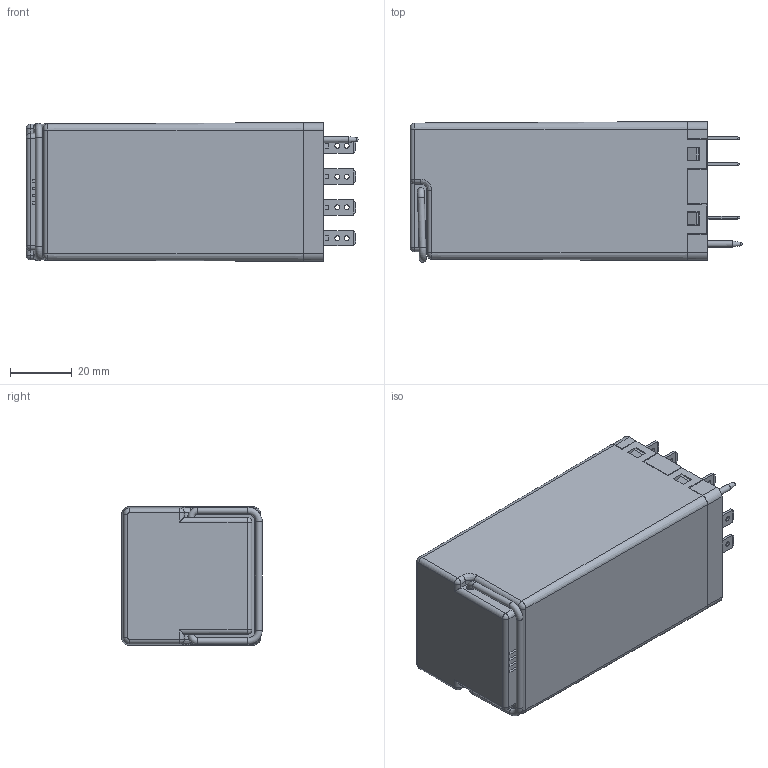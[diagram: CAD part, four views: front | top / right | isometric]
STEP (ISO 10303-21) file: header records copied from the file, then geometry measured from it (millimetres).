
FILE_DESCRIPTION (( 'STEP AP203' ), '1' );
FILE_NAME ('RELE BF4.STEP', '2017-07-28T06:26:49', ( 'arteche' ), ( '' ), 'SwSTEP 2.0', 'SolidWorks 2013', '' );
FILE_SCHEMA (( 'CONFIG_CONTROL_DESIGN' ));
Length unit declared in the file: millimetre
Products named in the file (1): RELE BF4
Bounding box: 107.7 x 45.59 x 45.07 mm (x, y, z)
Volume: 186546 mm3; surface area: 26924.2 mm2
Topology: 1 solids, 7 shells, 717 faces, 1894 edges, 1222 vertices
Faces by surface type: plane 562, cylinder 128, torus 12, cone 7, sphere 4, bspline 4
Full cylindrical faces by diameter (mm): 1.6 x28, 2 x1, 2.2 x5, 6 x3
Entity records: 21845 total; most frequent: CARTESIAN_POINT 4594, ORIENTED_EDGE 3670, DIRECTION 3222, EDGE_CURVE 1835, LINE 1540, VECTOR 1540, VERTEX_POINT 1213, EDGE_LOOP 856
